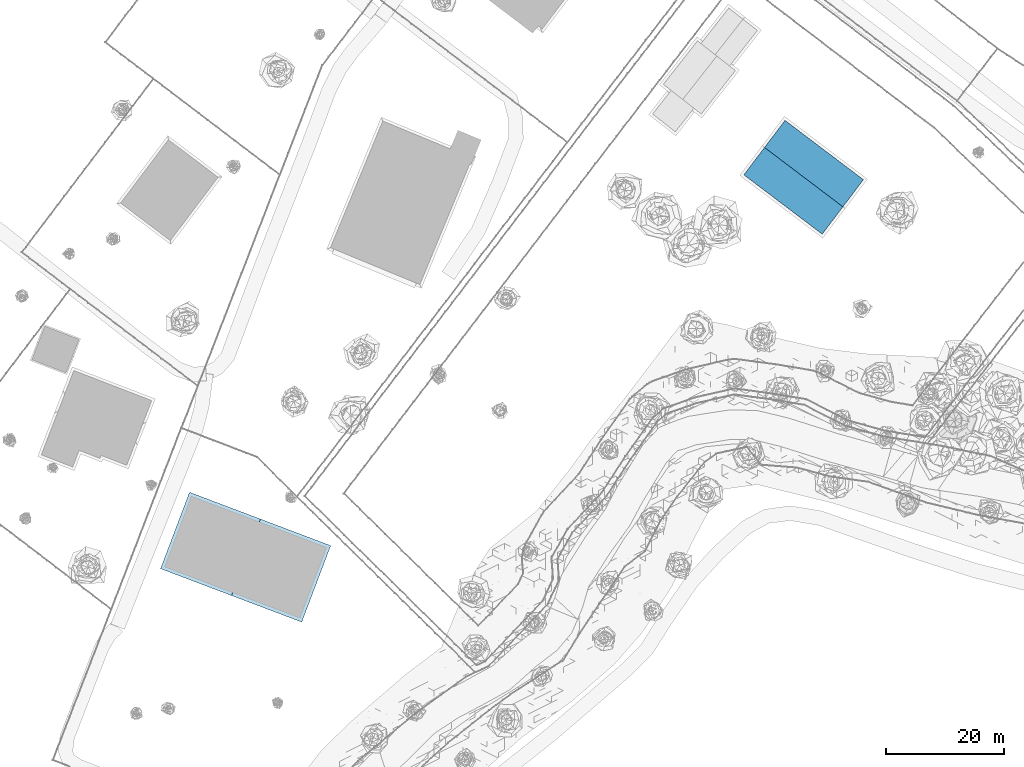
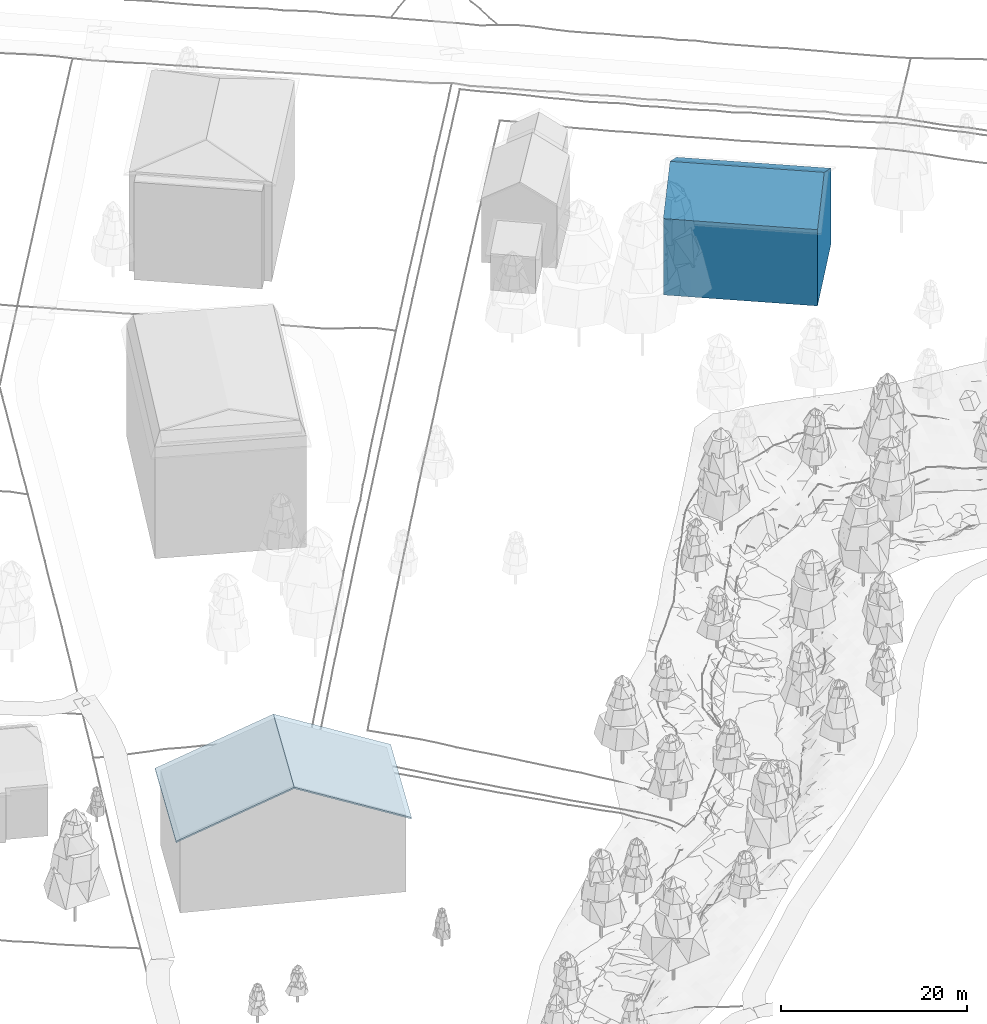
# Not in any storey, part 6 of 88: 1 roof, 1 wall.
"""IFC4 building model written with IfcOpenShell, lengths in metres."""

import ifcopenshell
import ifcopenshell.guid

model = None  # the IFC model being written
_history = None  # IfcOwnerHistory: only IFC2X3 demands one
_inside = {}  # id of a spatial element -> (the spatial element, [elements in it])
_under = {}  # id of a project, library or spatial element -> (it, [spatial elements below it])
_declared = {}  # id of a project -> (the project, [libraries it declares])
_typed = {}  # id of a type object -> (the type object, [elements of that type])
_made_of = {}  # id of a material, layer set ... -> (it, [elements and type objects made of it])


def new_model(schema):
    """Start an empty IFC model of exactly this schema.

    Asked for "IFC4X3", IfcOpenShell would pick the latest addendum, in which some entities
    have other attributes; the version numbers below select the first issue.
    IFC2X3 requires an IfcOwnerHistory on every rooted entity: one is made here for all.
    """
    global model, _history
    if schema == "IFC4X3":
        model = ifcopenshell.file(schema_version=(4, 3, 0, 0))
    else:
        model = ifcopenshell.file(schema=schema)
    _inside.clear()
    _under.clear()
    _declared.clear()
    _typed.clear()
    _made_of.clear()
    _history = None
    if model.schema == "IFC2X3":
        org = make("IfcOrganization", Name="unknown")
        user = make(
            "IfcPersonAndOrganization",
            ThePerson=make("IfcPerson", FamilyName="unknown"),
            TheOrganization=org,
        )
        app = make(
            "IfcApplication",
            ApplicationDeveloper=org,
            Version="unknown",
            ApplicationFullName="unknown",
            ApplicationIdentifier="unknown",
        )
        _history = make(
            "IfcOwnerHistory",
            OwningUser=user,
            OwningApplication=app,
            ChangeAction="ADDED",
            CreationDate=0,
        )
    return model


def make(cls, **values):
    """One entity of the class cls with the attributes given. An attribute that is None is left unset."""
    return model.create_entity(
        cls, **{name: value for name, value in values.items() if value is not None}
    )


def rooted(cls, **values):
    """An entity with a GlobalId (a new one), such as an element, a storey or a relation."""
    return make(cls, GlobalId=ifcopenshell.guid.new(), OwnerHistory=_history, **values)


def si_unit(unit_type, name, prefix=None):
    """IfcSIUnit, for example si_unit("LENGTHUNIT", "METRE", prefix="MILLI")."""
    return make("IfcSIUnit", UnitType=unit_type, Prefix=prefix, Name=name)


def assignment(units):
    """IfcUnitAssignment: the units of a project."""
    return None if units is None else make("IfcUnitAssignment", Units=units)


def point(xyz):
    """IfcCartesianPoint."""
    return None if xyz is None else make("IfcCartesianPoint", Coordinates=xyz)


def direction(xyz):
    """IfcDirection."""
    return None if xyz is None else make("IfcDirection", DirectionRatios=xyz)


def frame(location, z_axis=None, x_axis=None):
    """IfcAxis2Placement3D, a coordinate frame: its origin and axes. An axis left out is left unset."""
    return make(
        "IfcAxis2Placement3D",
        Location=point(location),
        Axis=direction(z_axis),
        RefDirection=direction(x_axis),
    )


def origin_with_axes():
    """The frame at (0, 0, 0) with the z axis (0, 0, 1) and the x axis (1, 0, 0) written out."""
    return frame((0.0, 0.0, 0.0), z_axis=(0.0, 0.0, 1.0), x_axis=(1.0, 0.0, 0.0))


def place(relative_to, where):
    """IfcLocalPlacement: puts the frame where relative to a parent placement (None: the world)."""
    return make(
        "IfcLocalPlacement", PlacementRelTo=relative_to, RelativePlacement=where
    )


def context(
    kind, dimensions, precision=None, world=None, true_north=None, identifier=None
):
    """IfcGeometricRepresentationContext, for example the 3D "Model" context."""
    return make(
        "IfcGeometricRepresentationContext",
        ContextIdentifier=identifier,
        ContextType=kind,
        CoordinateSpaceDimension=dimensions,
        Precision=precision,
        WorldCoordinateSystem=world,
        TrueNorth=true_north,
    )


def subcontext(parent, identifier, kind, view, scale=None):
    """IfcGeometricRepresentationSubContext, for example "Body" below "Model"."""
    return make(
        "IfcGeometricRepresentationSubContext",
        ContextIdentifier=identifier,
        ContextType=kind,
        ParentContext=parent,
        TargetScale=scale,
        TargetView=view,
    )


def project(units=None, contexts=None):
    """IfcProject with its units and contexts."""
    return rooted(
        "IfcProject",
        Name="project",
        RepresentationContexts=contexts,
        UnitsInContext=assignment(units),
    )


def spatial(cls, under=None, at=None, **own):
    """A site, building, storey or space (cls), placed at a placement, below another one or the project."""
    s = rooted(cls, ObjectPlacement=at, **own)
    if under is not None:
        _under.setdefault(under.id(), (under, []))[1].append(s)
    return s


def faces_of(points, faces, orient=None, outer=None):
    """IfcFace entities. A face is a list of loops; a loop is a list of indices into points, from 0.

    orient and outer hold one flag for each loop. By default every Orientation is true, the
    first loop of a face is its IfcFaceOuterBound and the others are IfcFaceBound.
    """
    made = []
    for i, loops in enumerate(faces):
        bounds = []
        for j, loop in enumerate(loops):
            is_outer = j == 0 if outer is None else outer[i][j]
            bounds.append(
                make(
                    "IfcFaceOuterBound" if is_outer else "IfcFaceBound",
                    Bound=make("IfcPolyLoop", Polygon=[points[k] for k in loop]),
                    Orientation=True if orient is None else orient[i][j],
                )
            )
        made.append(make("IfcFace", Bounds=bounds))
    return made


def faceted_brep(points, faces, orient=None, outer=None, voids=None):
    """IfcFacetedBrep: a solid bounded by flat faces; with voids (closed shells), ...WithVoids."""
    shared = [point(p) for p in points]
    hull = make("IfcClosedShell", CfsFaces=faces_of(shared, faces, orient, outer))
    if voids is None:
        return make("IfcFacetedBrep", Outer=hull)
    return make(
        "IfcFacetedBrepWithVoids",
        Outer=hull,
        Voids=[
            make(cls, CfsFaces=faces_of(shared, fs, o, b)) for cls, fs, o, b in voids
        ],
    )


def shape(context_of_items, identifier, shape_type, items):
    """IfcShapeRepresentation: the items that make up one representation, for example the "Body"."""
    return make(
        "IfcShapeRepresentation",
        ContextOfItems=context_of_items,
        RepresentationIdentifier=identifier,
        RepresentationType=shape_type,
        Items=items,
    )


def made_of(thing, what):
    """Note that an element or type object is made of a material, layer set ...; save() writes the relation."""
    if what is not None:
        _made_of.setdefault(what.id(), (what, []))[1].append(thing)
    return thing


def element(
    cls,
    number,
    at=None,
    inside=None,
    cuts=None,
    type_object=None,
    material=None,
    context=None,
    identifier="Body",
    shape_type=None,
    held_by="IfcProductDefinitionShape",
    body=None,
    shapes=None,
    **own,
):
    """One element of the class cls, such as IfcWall. Its Tag is "e" and its number.

    at: its placement. inside: the storey or other place that contains it. cuts: it is an
    opening in that element (IfcRelVoidsElement). A single representation is given by context,
    identifier, shape_type and body (its items); several are given by shapes. held_by: the class
    of the entity that holds the representations. save() writes the other relations.
    """
    e = rooted(cls, Tag="e%d" % number, ObjectPlacement=at, **own)
    if body is not None:
        shapes = [shape(context, identifier, shape_type, body)]
    if shapes is not None:
        e.Representation = make(held_by, Representations=shapes)
    if inside is not None:
        _inside.setdefault(inside.id(), (inside, []))[1].append(e)
    if cuts is not None:
        rooted(
            "IfcRelVoidsElement", RelatingBuildingElement=cuts, RelatedOpeningElement=e
        )
    if type_object is not None:
        _typed.setdefault(type_object.id(), (type_object, []))[1].append(e)
    return made_of(e, material)


def aggregate(whole, parts):
    """IfcRelAggregates: a whole, such as a stair, and the parts it consists of."""
    return rooted("IfcRelAggregates", RelatingObject=whole, RelatedObjects=parts)


def save(model, path):
    """Write the relations noted so far, then the file.

    IfcRelAggregates (storeys below a building ...), IfcRelContainedInSpatialStructure (elements
    in a storey), IfcRelDefinesByType, IfcRelAssociatesMaterial and IfcRelDeclares: one each for
    every whole, place, type object, material and project.
    """
    for whole, parts in _under.values():
        aggregate(whole, parts)
    for where, things in _inside.values():
        rooted(
            "IfcRelContainedInSpatialStructure",
            RelatedElements=things,
            RelatingStructure=where,
        )
    for kind, things in _typed.values():
        rooted("IfcRelDefinesByType", RelatedObjects=things, RelatingType=kind)
    for what, things in _made_of.values():
        rooted("IfcRelAssociatesMaterial", RelatedObjects=things, RelatingMaterial=what)
    for by, libraries in _declared.values():
        rooted("IfcRelDeclares", RelatingContext=by, RelatedDefinitions=libraries)
    model.write(path)


model = new_model("IFC4")

# Units and contexts
model_context = context("Model", 3, precision=1e-05, world=origin_with_axes())
body_context = subcontext(model_context, "Body", "Model", "MODEL_VIEW")
ifc_project = project(units=[si_unit("LENGTHUNIT", "METRE"), si_unit("AREAUNIT", "SQUARE_METRE"), si_unit("VOLUMEUNIT", "CUBIC_METRE"), si_unit("PLANEANGLEUNIT", "RADIAN")], contexts=[model_context])

# Sites, building
site_1_placement = place(None, origin_with_axes())
site_1 = spatial("IfcSite", under=ifc_project, at=site_1_placement, Name="CH907857693633", CompositionType="ELEMENT")
site_2_placement = place(None, origin_with_axes())
site_2 = spatial("IfcSite", under=site_1, at=site_2_placement, Name="Buildings", CompositionType="ELEMENT")
building_1_placement = place(None, origin_with_axes())
building_1 = spatial("IfcBuilding", under=site_2, at=building_1_placement, Name="Building_5FC85BE9", CompositionType="ELEMENT")

# Wall
wall_placement = place(building_1_placement, origin_with_axes())
element("IfcWall", 1, at=wall_placement, inside=building_1, Name="Building_5FC85BE9_Wall", PredefinedType="NOTDEFINED", context=body_context, shape_type="Brep", body=[
    faceted_brep([(140.988000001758, 126.057999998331, 15.9838877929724), (144.508000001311, 130.708000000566, 19.4475877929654), (136.085999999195, 133.423999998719, 17.7157877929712), (131.186000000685, 140.787999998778, 19.4475877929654), (127.66800000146, 136.138000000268, 15.9838877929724), (136.085999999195, 133.423999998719, 17.7157877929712), (147.989999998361, 135.313999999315, 15.9858877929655), (141.329999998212, 140.35399999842, 15.9858877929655), (139.585999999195, 138.050000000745, 17.7177877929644), (134.670000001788, 145.394000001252, 15.9858877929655), (139.585999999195, 138.050000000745, 17.7177877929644), (141.329999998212, 140.35399999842, 15.9858877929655), (131.186000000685, 140.787999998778, 19.4475877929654), (137.846000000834, 135.747999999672, 19.4475877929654), (139.585999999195, 138.050000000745, 17.7177877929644), (144.508000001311, 130.708000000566, 19.4475877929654), (139.585999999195, 138.050000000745, 17.7177877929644), (137.846000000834, 135.747999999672, 19.4475877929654), (130.995999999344, 133.618000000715, 8.47248779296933), (134.328000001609, 131.098000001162, 5.97068779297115), (134.328000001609, 131.098000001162, 10.9762877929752), (130.995999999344, 133.618000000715, 13.4800877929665), (134.328000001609, 131.098000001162, 10.9762877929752), (134.328000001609, 131.098000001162, 15.9838877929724), (137.655999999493, 128.578000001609, 13.4800877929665), (134.328000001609, 131.098000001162, 15.9838877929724), (134.328000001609, 131.098000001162, 10.9762877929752), (137.655999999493, 128.578000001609, 8.47248779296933), (134.328000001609, 131.098000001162, 10.9762877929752), (134.328000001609, 131.098000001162, 5.97068779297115), (144.427999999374, 130.602000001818, 5.97068779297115), (142.708000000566, 128.329999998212, 10.9762877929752), (140.988000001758, 126.059999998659, 5.97068779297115), (142.708000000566, 128.329999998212, 10.9762877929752), (140.988000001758, 126.057999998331, 15.9838877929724), (140.988000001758, 126.059999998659, 10.9762877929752), (142.708000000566, 128.329999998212, 10.9762877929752), (140.988000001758, 126.059999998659, 10.9762877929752), (140.988000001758, 126.059999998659, 5.97068779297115), (146.208000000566, 132.958000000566, 10.9782877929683), (144.488000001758, 130.686000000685, 15.9858877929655), (143.598000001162, 129.508000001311, 13.4820877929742), (147.989999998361, 135.313999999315, 15.9858877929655), (144.508000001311, 130.708000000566, 19.4475877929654), (144.488000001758, 130.686000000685, 15.9858877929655), (144.427999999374, 130.602000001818, 5.97068779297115), (147.989999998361, 135.313999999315, 5.97068779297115), (146.208000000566, 132.958000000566, 10.9782877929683), (141.329999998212, 140.35399999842, 10.9782877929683), (144.657999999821, 137.833999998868, 8.47448779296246), (141.329999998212, 140.35399999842, 5.97068779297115), (141.329999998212, 140.35399999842, 15.9858877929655), (144.657999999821, 137.833999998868, 13.4820877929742), (141.329999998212, 140.35399999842, 10.9782877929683), (141.329999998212, 140.35399999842, 10.9782877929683), (137.997999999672, 142.874000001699, 13.4820877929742), (141.329999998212, 140.35399999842, 15.9858877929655), (141.329999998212, 140.35399999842, 5.97068779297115), (137.997999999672, 142.874000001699, 8.47448779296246), (141.329999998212, 140.35399999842, 10.9782877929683), (127.66800000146, 136.138000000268, 10.9762877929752), (131.16800000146, 140.765999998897, 10.9762877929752), (127.66800000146, 136.138000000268, 5.97068779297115), (127.66800000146, 136.138000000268, 15.9838877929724), (131.16800000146, 140.765999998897, 10.9762877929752), (127.66800000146, 136.138000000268, 10.9762877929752), (134.670000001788, 145.394000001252, 5.96868779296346), (131.16800000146, 140.765999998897, 10.9762877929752), (134.670000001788, 145.394000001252, 10.9782877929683), (131.16800000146, 140.765999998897, 10.9762877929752), (134.670000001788, 145.394000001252, 5.96868779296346), (131.16800000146, 140.765999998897, 5.97068779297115), (134.670000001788, 145.394000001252, 10.9782877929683), (131.16800000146, 140.765999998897, 10.9762877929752), (134.670000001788, 145.394000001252, 15.9858877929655), (131.16800000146, 140.765999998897, 15.9858877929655), (134.670000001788, 145.394000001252, 15.9858877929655), (131.16800000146, 140.765999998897, 10.9762877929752), (131.16800000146, 140.765999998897, 5.97068779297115), (127.66800000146, 136.138000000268, 5.97068779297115), (131.16800000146, 140.765999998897, 10.9762877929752), (131.16800000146, 140.765999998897, 10.9762877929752), (127.66800000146, 136.138000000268, 15.9838877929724), (131.16800000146, 140.765999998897, 15.9858877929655), (127.66800000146, 136.138000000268, 15.9838877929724), (131.186000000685, 140.787999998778, 19.4475877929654), (131.16800000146, 140.765999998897, 15.9858877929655), (141.329999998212, 140.35399999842, 5.97068779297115), (147.989999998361, 135.313999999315, 5.97068779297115), (139.548000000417, 137.997999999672, 5.97068779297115), (144.427999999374, 130.602000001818, 5.97068779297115), (139.548000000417, 137.997999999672, 5.97068779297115), (147.989999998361, 135.313999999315, 5.97068779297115), (131.16800000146, 140.765999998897, 5.97068779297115), (133.607999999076, 137.06799999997, 5.97068779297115), (127.66800000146, 136.138000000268, 5.97068779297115), (136.048000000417, 133.370000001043, 5.97068779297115), (140.988000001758, 126.059999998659, 5.97068779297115), (134.328000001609, 131.098000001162, 5.97068779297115), (134.670000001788, 145.394000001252, 5.96868779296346), (139.548000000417, 137.997999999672, 5.97068779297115), (133.607999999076, 137.06799999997, 5.97068779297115), (136.048000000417, 133.370000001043, 5.97068779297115), (133.607999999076, 137.06799999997, 5.97068779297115), (139.548000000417, 137.997999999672, 5.97068779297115), (133.607999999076, 137.06799999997, 5.97068779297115), (136.048000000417, 133.370000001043, 5.97068779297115), (127.66800000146, 136.138000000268, 5.97068779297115), (139.548000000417, 137.997999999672, 5.97068779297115), (144.427999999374, 130.602000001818, 5.97068779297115), (136.048000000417, 133.370000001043, 5.97068779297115), (139.548000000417, 137.997999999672, 5.97068779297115), (134.670000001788, 145.394000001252, 5.96868779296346), (141.329999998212, 140.35399999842, 5.97068779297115), (134.328000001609, 131.098000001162, 5.97068779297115), (127.66800000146, 136.138000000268, 5.97068779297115), (136.048000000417, 133.370000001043, 5.97068779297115), (140.988000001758, 126.059999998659, 5.97068779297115), (136.048000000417, 133.370000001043, 5.97068779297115), (144.427999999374, 130.602000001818, 5.97068779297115), (133.607999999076, 137.06799999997, 5.97068779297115), (131.16800000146, 140.765999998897, 5.97068779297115), (134.670000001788, 145.394000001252, 5.96868779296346), (137.997999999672, 142.874000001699, 8.47448779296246), (134.670000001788, 145.394000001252, 10.9782877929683), (141.329999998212, 140.35399999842, 10.9782877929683), (144.657999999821, 137.833999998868, 8.47448779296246), (141.329999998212, 140.35399999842, 10.9782877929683), (147.989999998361, 135.313999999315, 10.9782877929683), (144.657999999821, 137.833999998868, 13.4820877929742), (147.989999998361, 135.313999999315, 10.9782877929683), (141.329999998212, 140.35399999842, 10.9782877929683), (137.997999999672, 142.874000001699, 13.4820877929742), (141.329999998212, 140.35399999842, 10.9782877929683), (134.670000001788, 145.394000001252, 10.9782877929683), (134.328000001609, 131.098000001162, 10.9762877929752), (127.66800000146, 136.138000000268, 10.9762877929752), (130.995999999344, 133.618000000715, 8.47248779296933), (134.328000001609, 131.098000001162, 10.9762877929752), (140.988000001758, 126.059999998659, 10.9762877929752), (137.655999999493, 128.578000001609, 13.4800877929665), (144.508000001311, 130.708000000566, 19.4475877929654), (137.846000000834, 135.747999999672, 19.4475877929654), (136.085999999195, 133.423999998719, 17.7157877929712), (131.186000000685, 140.787999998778, 19.4475877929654), (136.085999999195, 133.423999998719, 17.7157877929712), (137.846000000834, 135.747999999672, 19.4475877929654), (140.988000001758, 126.057999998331, 15.9838877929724), (136.085999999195, 133.423999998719, 17.7157877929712), (134.328000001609, 131.098000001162, 15.9838877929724), (134.670000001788, 145.394000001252, 15.9858877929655), (131.186000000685, 140.787999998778, 19.4475877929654), (139.585999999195, 138.050000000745, 17.7177877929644), (144.508000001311, 130.708000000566, 19.4475877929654), (147.989999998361, 135.313999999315, 15.9858877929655), (139.585999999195, 138.050000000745, 17.7177877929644), (136.085999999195, 133.423999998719, 17.7157877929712), (127.66800000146, 136.138000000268, 15.9838877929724), (134.328000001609, 131.098000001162, 15.9838877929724), (140.988000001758, 126.057999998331, 15.9838877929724), (134.328000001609, 131.098000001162, 15.9838877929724), (137.655999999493, 128.578000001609, 13.4800877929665), (144.657999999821, 137.833999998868, 13.4820877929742), (141.329999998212, 140.35399999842, 15.9858877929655), (147.989999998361, 135.313999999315, 15.9858877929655), (137.997999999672, 142.874000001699, 13.4820877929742), (134.670000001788, 145.394000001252, 15.9858877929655), (141.329999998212, 140.35399999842, 15.9858877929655), (127.66800000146, 136.138000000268, 5.97068779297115), (134.328000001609, 131.098000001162, 5.97068779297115), (130.995999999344, 133.618000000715, 8.47248779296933), (137.997999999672, 142.874000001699, 8.47448779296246), (141.329999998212, 140.35399999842, 5.97068779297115), (134.670000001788, 145.394000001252, 5.96868779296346), (144.657999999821, 137.833999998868, 8.47448779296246), (147.989999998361, 135.313999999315, 5.97068779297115), (141.329999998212, 140.35399999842, 5.97068779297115), (144.427999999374, 130.602000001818, 5.97068779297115), (146.208000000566, 132.958000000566, 10.9782877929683), (142.708000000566, 128.329999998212, 10.9762877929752), (146.208000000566, 132.958000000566, 10.9782877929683), (147.989999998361, 135.313999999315, 5.97068779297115), (147.989999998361, 135.313999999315, 10.9782877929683), (146.208000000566, 132.958000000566, 10.9782877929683), (147.989999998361, 135.313999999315, 10.9782877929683), (147.989999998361, 135.313999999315, 15.9858877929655), (146.208000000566, 132.958000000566, 10.9782877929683), (147.989999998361, 135.313999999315, 15.9858877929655), (144.488000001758, 130.686000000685, 15.9858877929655), (144.508000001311, 130.708000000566, 19.4475877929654), (140.988000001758, 126.057999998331, 15.9838877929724), (144.488000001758, 130.686000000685, 15.9858877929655), (131.186000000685, 140.787999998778, 19.4475877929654), (134.670000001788, 145.394000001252, 15.9858877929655), (131.16800000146, 140.765999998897, 15.9858877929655), (140.988000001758, 126.057999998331, 15.9838877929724), (142.708000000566, 128.329999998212, 10.9762877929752), (143.598000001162, 129.508000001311, 13.4820877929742), (147.989999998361, 135.313999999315, 5.97068779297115), (144.657999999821, 137.833999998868, 8.47448779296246), (147.989999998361, 135.313999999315, 10.9782877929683), (147.989999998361, 135.313999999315, 10.9782877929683), (144.657999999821, 137.833999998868, 13.4820877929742), (147.989999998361, 135.313999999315, 15.9858877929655), (134.670000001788, 145.394000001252, 15.9858877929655), (137.997999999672, 142.874000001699, 13.4820877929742), (134.670000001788, 145.394000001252, 10.9782877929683), (134.670000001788, 145.394000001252, 10.9782877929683), (137.997999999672, 142.874000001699, 8.47448779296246), (134.670000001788, 145.394000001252, 5.96868779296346), (130.995999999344, 133.618000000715, 8.47248779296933), (127.66800000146, 136.138000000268, 10.9762877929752), (127.66800000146, 136.138000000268, 5.97068779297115), (130.995999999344, 133.618000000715, 13.4800877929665), (127.66800000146, 136.138000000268, 15.9838877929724), (127.66800000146, 136.138000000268, 10.9762877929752), (137.655999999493, 128.578000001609, 13.4800877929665), (140.988000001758, 126.059999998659, 10.9762877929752), (140.988000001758, 126.057999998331, 15.9838877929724), (137.655999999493, 128.578000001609, 8.47248779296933), (140.988000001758, 126.059999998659, 5.97068779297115), (140.988000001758, 126.059999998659, 10.9762877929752), (144.488000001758, 130.686000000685, 15.9858877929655), (140.988000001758, 126.057999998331, 15.9838877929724), (143.598000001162, 129.508000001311, 13.4820877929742), (142.708000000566, 128.329999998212, 10.9762877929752), (146.208000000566, 132.958000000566, 10.9782877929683), (143.598000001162, 129.508000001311, 13.4820877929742), (134.328000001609, 131.098000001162, 15.9838877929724), (127.66800000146, 136.138000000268, 15.9838877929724), (130.995999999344, 133.618000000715, 13.4800877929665), (127.66800000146, 136.138000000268, 10.9762877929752), (134.328000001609, 131.098000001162, 10.9762877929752), (130.995999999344, 133.618000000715, 13.4800877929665), (134.328000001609, 131.098000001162, 5.97068779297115), (140.988000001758, 126.059999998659, 5.97068779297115), (137.655999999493, 128.578000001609, 8.47248779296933), (140.988000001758, 126.059999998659, 10.9762877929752), (134.328000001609, 131.098000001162, 10.9762877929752), (137.655999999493, 128.578000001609, 8.47248779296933)], [[[0, 1, 2]], [[3, 4, 5]], [[6, 7, 8]], [[9, 10, 11]], [[12, 13, 14]], [[15, 16, 17]], [[18, 19, 20]], [[21, 22, 23]], [[24, 25, 26]], [[27, 28, 29]], [[30, 31, 32]], [[33, 34, 35]], [[36, 37, 38]], [[39, 40, 41]], [[42, 43, 44]], [[45, 46, 47]], [[48, 49, 50]], [[51, 52, 53]], [[54, 55, 56]], [[57, 58, 59]], [[60, 61, 62]], [[63, 64, 65]], [[66, 67, 68]], [[69, 70, 71]], [[72, 73, 74]], [[75, 76, 77]], [[78, 79, 80]], [[81, 82, 83]], [[84, 85, 86]], [[87, 88, 89]], [[90, 91, 92]], [[93, 94, 95]], [[96, 97, 98]], [[99, 100, 101]], [[102, 103, 104]], [[105, 106, 107]], [[108, 109, 110]], [[111, 112, 113]], [[114, 115, 116]], [[117, 118, 119]], [[120, 121, 122]], [[123, 124, 125]], [[126, 127, 128]], [[129, 130, 131]], [[132, 133, 134]], [[135, 136, 137]], [[138, 139, 140]], [[141, 142, 143]], [[144, 145, 146]], [[147, 148, 149]], [[150, 151, 152]], [[153, 154, 155]], [[156, 157, 158]], [[159, 160, 161]], [[162, 163, 164]], [[165, 166, 167]], [[168, 169, 170]], [[171, 172, 173]], [[174, 175, 176]], [[177, 178, 179]], [[180, 181, 182]], [[183, 184, 185]], [[186, 187, 188]], [[189, 190, 191]], [[192, 193, 194]], [[195, 196, 197]], [[198, 199, 200]], [[201, 202, 203]], [[204, 205, 206]], [[207, 208, 209]], [[210, 211, 212]], [[213, 214, 215]], [[216, 217, 218]], [[219, 220, 221]], [[222, 223, 224]], [[225, 226, 227]], [[228, 229, 230]], [[231, 232, 233]], [[234, 235, 236]], [[237, 238, 239]]]),
])

# Building
building_2_placement = place(None, origin_with_axes())
building_2 = spatial("IfcBuilding", under=site_2, at=building_2_placement, Name="Building_2D9329A2", CompositionType="ELEMENT")

# Roof
roof_placement = place(building_2_placement, origin_with_axes())
element("IfcRoof", 2, at=roof_placement, inside=building_2, Name="Building_2D9329A2_Roof", PredefinedType="NOTDEFINED", context=body_context, shape_type="Brep", body=[
    faceted_brep([(33.4970000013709, 82.2190000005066, 9.57158779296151), (37.0630000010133, 73.4429999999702, 12.3932877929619), (39.5190000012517, 79.9409999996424, 12.3932877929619), (40.6290000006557, 64.6669999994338, 15.2150877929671), (37.0630000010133, 73.4429999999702, 12.3932877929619), (34.605000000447, 66.945000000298, 12.3932877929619), (45.5430000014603, 77.6629999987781, 15.2150877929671), (49.054999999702, 68.9070000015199, 12.5032877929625), (51.5130000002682, 75.4050000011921, 12.5032877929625), (49.054999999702, 68.9070000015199, 12.5032877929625), (52.5670000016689, 60.1490000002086, 9.79348779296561), (55.0249999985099, 66.6490000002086, 9.79348779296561), (52.5670000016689, 60.1490000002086, 9.79348779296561), (49.054999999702, 68.9070000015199, 12.5032877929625), (46.5969999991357, 62.4090000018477, 12.5032877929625), (45.5430000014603, 77.6629999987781, 15.2150877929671), (45.5430000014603, 77.6629999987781, 15.01508779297), (39.5190000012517, 79.9409999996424, 12.3932877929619), (39.5190000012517, 79.9409999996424, 12.1933877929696), (39.5190000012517, 79.9409999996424, 12.2933877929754), (45.5430000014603, 77.6629999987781, 15.01508779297), (39.5190000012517, 79.9409999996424, 12.2933877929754), (39.5190000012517, 79.9409999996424, 12.3932877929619), (45.5430000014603, 77.6629999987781, 15.01508779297), (33.4970000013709, 82.2190000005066, 9.3735877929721), (33.4970000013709, 82.2190000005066, 9.57158779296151), (39.5190000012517, 79.9409999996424, 12.1933877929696), (39.5190000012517, 79.9409999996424, 12.3932877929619), (39.5190000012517, 79.9409999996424, 12.2933877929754), (33.4970000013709, 82.2190000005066, 9.57158779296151), (39.5190000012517, 79.9409999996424, 12.2933877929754), (39.5190000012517, 79.9409999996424, 12.1933877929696), (33.4970000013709, 82.2190000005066, 9.57158779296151), (28.5830000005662, 69.2230000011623, 9.57158779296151), (31.0390000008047, 75.7210000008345, 9.47358779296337), (28.5830000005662, 69.2230000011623, 9.3735877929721), (31.0390000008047, 75.7210000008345, 9.3735877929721), (28.5830000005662, 69.2230000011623, 9.3735877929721), (31.0390000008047, 75.7210000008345, 9.47358779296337), (31.0390000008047, 75.7210000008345, 9.47358779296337), (28.5830000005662, 69.2230000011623, 9.57158779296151), (31.0390000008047, 75.7210000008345, 9.57158779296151), (33.4970000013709, 82.2190000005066, 9.3735877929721), (31.0390000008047, 75.7210000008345, 9.47358779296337), (33.4970000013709, 82.2190000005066, 9.57158779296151), (31.0390000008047, 75.7210000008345, 9.57158779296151), (33.4970000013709, 82.2190000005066, 9.57158779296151), (31.0390000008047, 75.7210000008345, 9.47358779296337), (31.0390000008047, 75.7210000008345, 9.47358779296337), (33.4970000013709, 82.2190000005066, 9.3735877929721), (31.0390000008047, 75.7210000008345, 9.3735877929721), (34.605000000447, 66.945000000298, 12.2933877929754), (34.605000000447, 66.945000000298, 12.1933877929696), (40.6290000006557, 64.6669999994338, 15.01508779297), (40.6290000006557, 64.6669999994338, 15.01508779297), (40.6290000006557, 64.6669999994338, 15.2150877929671), (34.605000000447, 66.945000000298, 12.3932877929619), (34.605000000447, 66.945000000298, 12.3932877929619), (34.605000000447, 66.945000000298, 12.2933877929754), (40.6290000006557, 64.6669999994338, 15.01508779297), (34.605000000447, 66.945000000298, 12.2933877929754), (34.605000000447, 66.945000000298, 12.3932877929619), (28.5830000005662, 69.2230000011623, 9.57158779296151), (34.605000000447, 66.945000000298, 12.1933877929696), (34.605000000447, 66.945000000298, 12.2933877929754), (28.5830000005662, 69.2230000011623, 9.57158779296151), (28.5830000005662, 69.2230000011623, 9.57158779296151), (28.5830000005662, 69.2230000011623, 9.3735877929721), (34.605000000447, 66.945000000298, 12.1933877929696), (46.5969999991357, 62.4090000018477, 12.4032877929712), (52.5670000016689, 60.1490000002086, 9.79348779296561), (46.5969999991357, 62.4090000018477, 12.5032877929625), (52.5670000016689, 60.1490000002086, 9.79348779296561), (46.5969999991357, 62.4090000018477, 12.3032877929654), (52.5670000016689, 60.1510000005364, 9.59348779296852), (46.5969999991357, 62.4090000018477, 12.3032877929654), (52.5670000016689, 60.1490000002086, 9.79348779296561), (46.5969999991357, 62.4090000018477, 12.4032877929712), (46.5969999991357, 62.4090000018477, 12.5032877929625), (40.6290000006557, 64.6669999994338, 15.01508779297), (46.5969999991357, 62.4090000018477, 12.4032877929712), (46.5969999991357, 62.4090000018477, 12.4032877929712), (40.6290000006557, 64.6669999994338, 15.01508779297), (46.5969999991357, 62.4090000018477, 12.3032877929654), (40.6290000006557, 64.6669999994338, 15.01508779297), (46.5969999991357, 62.4090000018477, 12.5032877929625), (40.6290000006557, 64.6669999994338, 15.2150877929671), (57.4829999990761, 73.1469999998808, 9.79348779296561), (55.0249999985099, 66.6490000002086, 9.79348779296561), (55.0249999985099, 66.6490000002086, 9.69348779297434), (55.0249999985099, 66.6490000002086, 9.69348779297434), (57.4829999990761, 73.1469999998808, 9.59348779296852), (57.4829999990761, 73.1469999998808, 9.79348779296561), (57.4829999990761, 73.1469999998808, 9.59348779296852), (55.0249999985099, 66.6490000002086, 9.69348779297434), (55.0249999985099, 66.6490000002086, 9.59348779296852), (52.5670000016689, 60.1510000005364, 9.59348779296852), (55.0249999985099, 66.6490000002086, 9.59348779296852), (55.0249999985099, 66.6490000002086, 9.69348779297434), (52.5670000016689, 60.1490000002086, 9.79348779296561), (55.0249999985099, 66.6490000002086, 9.69348779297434), (55.0249999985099, 66.6490000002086, 9.79348779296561), (55.0249999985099, 66.6490000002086, 9.69348779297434), (52.5670000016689, 60.1490000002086, 9.79348779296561), (52.5670000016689, 60.1510000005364, 9.59348779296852), (45.5430000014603, 77.6629999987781, 15.01508779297), (51.5130000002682, 75.4050000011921, 12.4032877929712), (51.5130000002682, 75.4050000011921, 12.3032877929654), (57.4829999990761, 73.1469999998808, 9.79348779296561), (51.5130000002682, 75.4050000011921, 12.4032877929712), (51.5130000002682, 75.4050000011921, 12.5032877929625), (45.5430000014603, 77.6629999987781, 15.01508779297), (51.5130000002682, 75.4050000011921, 12.5032877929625), (51.5130000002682, 75.4050000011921, 12.4032877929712), (51.5130000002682, 75.4050000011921, 12.3032877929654), (57.4829999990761, 73.1469999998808, 9.79348779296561), (57.4829999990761, 73.1469999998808, 9.59348779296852), (57.4829999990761, 73.1469999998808, 9.79348779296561), (51.5130000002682, 75.4050000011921, 12.3032877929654), (51.5130000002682, 75.4050000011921, 12.4032877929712), (51.5130000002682, 75.4050000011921, 12.5032877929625), (45.5430000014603, 77.6629999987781, 15.01508779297), (45.5430000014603, 77.6629999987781, 15.2150877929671), (33.4970000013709, 82.2190000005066, 9.3735877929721), (37.0630000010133, 73.4429999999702, 12.1933877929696), (31.0390000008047, 75.7210000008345, 9.3735877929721), (40.6290000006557, 64.6669999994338, 15.01508779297), (37.0630000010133, 73.4429999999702, 12.1933877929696), (43.0850000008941, 71.1649999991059, 15.01508779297), (45.5430000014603, 77.6629999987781, 15.01508779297), (49.054999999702, 68.9070000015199, 12.3032877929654), (43.0850000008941, 71.1649999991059, 15.01508779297), (49.054999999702, 68.9070000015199, 12.3032877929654), (52.5670000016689, 60.1510000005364, 9.59348779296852), (46.5969999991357, 62.4090000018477, 12.3032877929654), (52.5670000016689, 60.1510000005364, 9.59348779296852), (49.054999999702, 68.9070000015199, 12.3032877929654), (55.0249999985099, 66.6490000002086, 9.59348779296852), (28.5830000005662, 69.2230000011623, 9.57158779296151), (37.0630000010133, 73.4429999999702, 12.3932877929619), (31.0390000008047, 75.7210000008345, 9.57158779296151), (45.5430000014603, 77.6629999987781, 15.2150877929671), (37.0630000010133, 73.4429999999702, 12.3932877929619), (43.0850000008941, 71.1649999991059, 15.2150877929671), (45.5430000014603, 77.6629999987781, 15.01508779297), (37.0630000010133, 73.4429999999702, 12.1933877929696), (39.5190000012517, 79.9409999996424, 12.1933877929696), (28.5830000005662, 69.2230000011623, 9.3735877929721), (37.0630000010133, 73.4429999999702, 12.1933877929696), (34.605000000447, 66.945000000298, 12.1933877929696), (40.6290000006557, 64.6669999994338, 15.2150877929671), (49.054999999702, 68.9070000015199, 12.5032877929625), (43.0850000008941, 71.1649999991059, 15.2150877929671), (57.4829999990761, 73.1469999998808, 9.79348779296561), (49.054999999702, 68.9070000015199, 12.5032877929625), (55.0249999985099, 66.6490000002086, 9.79348779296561), (57.4829999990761, 73.1469999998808, 9.59348779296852), (49.054999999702, 68.9070000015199, 12.3032877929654), (51.5130000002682, 75.4050000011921, 12.3032877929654), (40.6290000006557, 64.6669999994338, 15.01508779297), (49.054999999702, 68.9070000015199, 12.3032877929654), (46.5969999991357, 62.4090000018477, 12.3032877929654), (37.0630000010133, 73.4429999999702, 12.3932877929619), (28.5830000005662, 69.2230000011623, 9.57158779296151), (34.605000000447, 66.945000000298, 12.3932877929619), (37.0630000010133, 73.4429999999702, 12.1933877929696), (40.6290000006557, 64.6669999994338, 15.01508779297), (34.605000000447, 66.945000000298, 12.1933877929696), (37.0630000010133, 73.4429999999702, 12.3932877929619), (45.5430000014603, 77.6629999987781, 15.2150877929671), (39.5190000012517, 79.9409999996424, 12.3932877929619), (37.0630000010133, 73.4429999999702, 12.1933877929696), (33.4970000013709, 82.2190000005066, 9.3735877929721), (39.5190000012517, 79.9409999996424, 12.1933877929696), (49.054999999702, 68.9070000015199, 12.3032877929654), (57.4829999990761, 73.1469999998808, 9.59348779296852), (55.0249999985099, 66.6490000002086, 9.59348779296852), (37.0630000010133, 73.4429999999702, 12.3932877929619), (33.4970000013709, 82.2190000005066, 9.57158779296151), (31.0390000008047, 75.7210000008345, 9.57158779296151), (37.0630000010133, 73.4429999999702, 12.1933877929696), (28.5830000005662, 69.2230000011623, 9.3735877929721), (31.0390000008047, 75.7210000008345, 9.3735877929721), (37.0630000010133, 73.4429999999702, 12.3932877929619), (40.6290000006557, 64.6669999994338, 15.2150877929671), (43.0850000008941, 71.1649999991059, 15.2150877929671), (49.054999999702, 68.9070000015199, 12.5032877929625), (45.5430000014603, 77.6629999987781, 15.2150877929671), (43.0850000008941, 71.1649999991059, 15.2150877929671), (37.0630000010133, 73.4429999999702, 12.1933877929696), (45.5430000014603, 77.6629999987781, 15.01508779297), (43.0850000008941, 71.1649999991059, 15.01508779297), (49.054999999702, 68.9070000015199, 12.3032877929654), (40.6290000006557, 64.6669999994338, 15.01508779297), (43.0850000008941, 71.1649999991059, 15.01508779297), (49.054999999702, 68.9070000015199, 12.5032877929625), (40.6290000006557, 64.6669999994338, 15.2150877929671), (46.5969999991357, 62.4090000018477, 12.5032877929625), (49.054999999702, 68.9070000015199, 12.5032877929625), (57.4829999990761, 73.1469999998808, 9.79348779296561), (51.5130000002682, 75.4050000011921, 12.5032877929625), (49.054999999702, 68.9070000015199, 12.3032877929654), (45.5430000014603, 77.6629999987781, 15.01508779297), (51.5130000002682, 75.4050000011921, 12.3032877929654)], [[[0, 1, 2]], [[3, 4, 5]], [[6, 7, 8]], [[9, 10, 11]], [[12, 13, 14]], [[15, 16, 17]], [[18, 19, 20]], [[21, 22, 23]], [[24, 25, 26]], [[27, 28, 29]], [[30, 31, 32]], [[33, 34, 35]], [[36, 37, 38]], [[39, 40, 41]], [[42, 43, 44]], [[45, 46, 47]], [[48, 49, 50]], [[51, 52, 53]], [[54, 55, 56]], [[57, 58, 59]], [[60, 61, 62]], [[63, 64, 65]], [[66, 67, 68]], [[69, 70, 71]], [[72, 73, 74]], [[75, 76, 77]], [[78, 79, 80]], [[81, 82, 83]], [[84, 85, 86]], [[87, 88, 89]], [[90, 91, 92]], [[93, 94, 95]], [[96, 97, 98]], [[99, 100, 101]], [[102, 103, 104]], [[105, 106, 107]], [[108, 109, 110]], [[111, 112, 113]], [[114, 115, 116]], [[117, 118, 119]], [[120, 121, 122]], [[123, 124, 125]], [[126, 127, 128]], [[129, 130, 131]], [[132, 133, 134]], [[135, 136, 137]], [[138, 139, 140]], [[141, 142, 143]], [[144, 145, 146]], [[147, 148, 149]], [[150, 151, 152]], [[153, 154, 155]], [[156, 157, 158]], [[159, 160, 161]], [[162, 163, 164]], [[165, 166, 167]], [[168, 169, 170]], [[171, 172, 173]], [[174, 175, 176]], [[177, 178, 179]], [[180, 181, 182]], [[183, 184, 185]], [[186, 187, 188]], [[189, 190, 191]], [[192, 193, 194]], [[195, 196, 197]], [[198, 199, 200]], [[201, 202, 203]]]),
])

save(model, "model.ifc")
